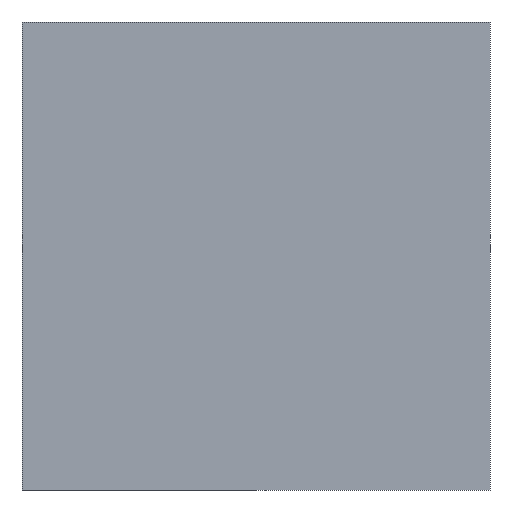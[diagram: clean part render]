
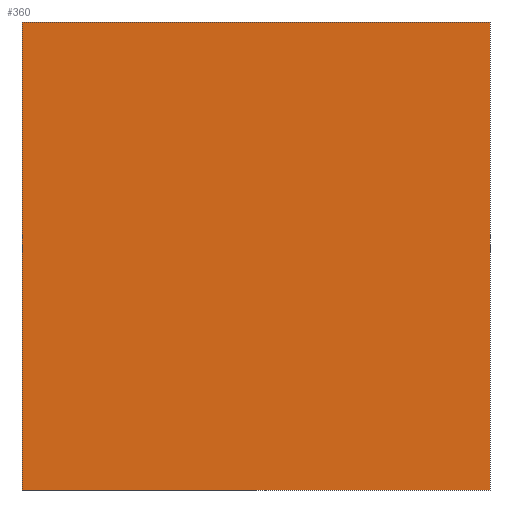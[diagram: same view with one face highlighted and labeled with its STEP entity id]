
A CAD part, left-side view. The second image highlights one B-rep face of the part: STEP entity #360.
In plain terms, the highlighted planar face has unit normal (-1, 0, 0).
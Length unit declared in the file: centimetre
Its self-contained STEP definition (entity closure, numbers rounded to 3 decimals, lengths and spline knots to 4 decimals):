
#12 = VECTOR ( 'NONE', #378, 100. ) ;
#18 = CARTESIAN_POINT ( 'NONE',  ( 0., 1000., 1000. ) ) ;
#19 = EDGE_CURVE ( 'NONE', #217, #22, #155, .T. ) ;
#22 = VERTEX_POINT ( 'NONE', #134 ) ;
#25 = CARTESIAN_POINT ( 'NONE',  ( 0., 1000., 1000. ) ) ;
#53 = CARTESIAN_POINT ( 'NONE',  ( 0., 0., 1000. ) ) ;
#55 = CARTESIAN_POINT ( 'NONE',  ( 0., 1000., 0. ) ) ;
#69 = AXIS2_PLACEMENT_3D ( 'NONE', #18, #145, #269 ) ;
#70 = VECTOR ( 'NONE', #294, 100. ) ;
#74 = CARTESIAN_POINT ( 'NONE',  ( 0., 0., 1000. ) ) ;
#84 = DIRECTION ( 'NONE',  ( 0., 0., -1. ) ) ;
#88 = EDGE_CURVE ( 'NONE', #323, #338, #270, .T. ) ;
#95 = ORIENTED_EDGE ( 'NONE', *, *, #147, .F. ) ;
#97 = EDGE_LOOP ( 'NONE', ( #303, #95, #186, #364 ) ) ;
#116 = CARTESIAN_POINT ( 'NONE',  ( 0., 1000., 1000. ) ) ;
#117 = CARTESIAN_POINT ( 'NONE',  ( 0., 1000., 1000. ) ) ;
#134 = CARTESIAN_POINT ( 'NONE',  ( 0., 0., 0. ) ) ;
#140 = CARTESIAN_POINT ( 'NONE',  ( 0., 1000., 0. ) ) ;
#145 = DIRECTION ( 'NONE',  ( 1., 0., 0. ) ) ;
#147 = EDGE_CURVE ( 'NONE', #338, #22, #234, .T. ) ;
#155 = LINE ( 'NONE', #140, #70 ) ;
#171 = LINE ( 'NONE', #117, #265 ) ;
#186 = ORIENTED_EDGE ( 'NONE', *, *, #88, .F. ) ;
#217 = VERTEX_POINT ( 'NONE', #55 ) ;
#234 = LINE ( 'NONE', #74, #12 ) ;
#265 = VECTOR ( 'NONE', #84, 100. ) ;
#268 = EDGE_CURVE ( 'NONE', #323, #217, #171, .T. ) ;
#269 = DIRECTION ( 'NONE',  ( 0., 0., -1. ) ) ;
#270 = LINE ( 'NONE', #116, #295 ) ;
#294 = DIRECTION ( 'NONE',  ( 0., -1., 0. ) ) ;
#295 = VECTOR ( 'NONE', #383, 100. ) ;
#302 = PLANE ( 'NONE',  #69 ) ;
#303 = ORIENTED_EDGE ( 'NONE', *, *, #19, .T. ) ;
#323 = VERTEX_POINT ( 'NONE', #25 ) ;
#338 = VERTEX_POINT ( 'NONE', #53 ) ;
#360 = ADVANCED_FACE ( 'NONE', ( #390 ), #302, .F. ) ;
#364 = ORIENTED_EDGE ( 'NONE', *, *, #268, .T. ) ;
#378 = DIRECTION ( 'NONE',  ( 0., 0., -1. ) ) ;
#383 = DIRECTION ( 'NONE',  ( 0., -1., 0. ) ) ;
#390 = FACE_OUTER_BOUND ( 'NONE', #97, .T. ) ;
